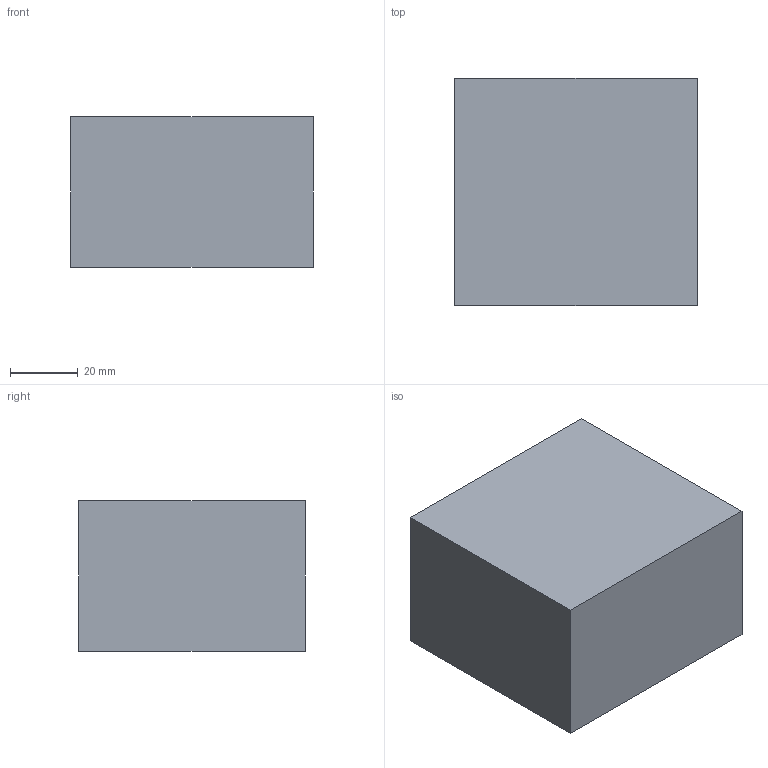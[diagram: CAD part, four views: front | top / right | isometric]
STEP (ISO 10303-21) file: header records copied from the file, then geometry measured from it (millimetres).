
FILE_DESCRIPTION( ( 'Test' ), '1' );
FILE_NAME( 'P:/EG-550/Projekte '06/KASUMI 2433/Pruefstand/Part2.stp', 'heute', ( 'Miller' ), ( 'Volke' ), 'XStep 1.0', 'Solid Edge', ' ' );
FILE_SCHEMA( ( 'automotive_design' ) );
Length unit declared in the file: millimetre
Products named in the file (1): 1
Bounding box: 71.42 x 66.82 x 44.45 mm (x, y, z)
Volume: 212127.2 mm3; surface area: 21834.1 mm2
Topology: 1 solids, 1 shells, 6 faces, 12 edges, 8 vertices
Faces by surface type: plane 6
Entity records: 220 total; most frequent: CARTESIAN_POINT 27, DIRECTION 26, ORIENTED_EDGE 24, EDGE_CURVE 12, LINE 12, VECTOR 12, VERTEX_POINT 8, AXIS2_PLACEMENT_3D 7
